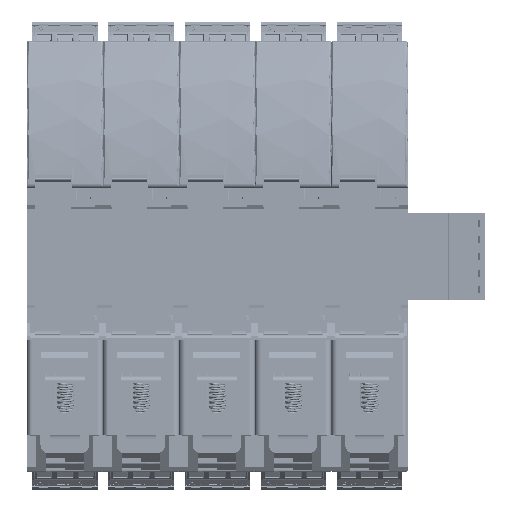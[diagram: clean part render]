
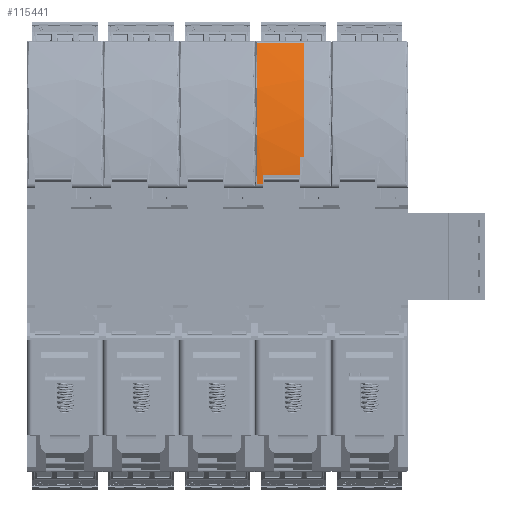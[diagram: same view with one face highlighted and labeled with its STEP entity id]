
A CAD part, front view. The second image highlights one B-rep face of the part: STEP entity #115441.
In plain terms, the highlighted cylindrical face has radius 80 mm (diameter 160 mm), a partial arc.
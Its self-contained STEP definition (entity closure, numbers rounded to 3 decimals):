
#115441=ADVANCED_FACE('',(#248951),#248953,.T.);
#248951=FACE_BOUND('',#248952,.T.);
#248952=EDGE_LOOP('',(#354961,#354962,#354963,#354964,#354965,#354966,#354967,#354968));
#248953=CYLINDRICAL_SURFACE('',#248954,80.);
#248954=AXIS2_PLACEMENT_3D('',#248955,#248956,#248957);
#248955=CARTESIAN_POINT('',(-1.7,13.5,75.75));
#248956=DIRECTION('',(-1.,0.,0.));
#248957=DIRECTION('',(0.,-1.,0.));
#354961=ORIENTED_EDGE('',*,*,#414800,.F.);
#354962=ORIENTED_EDGE('',*,*,#414801,.T.);
#354963=ORIENTED_EDGE('',*,*,#414802,.F.);
#354964=ORIENTED_EDGE('',*,*,#414803,.T.);
#354965=ORIENTED_EDGE('',*,*,#414804,.F.);
#354966=ORIENTED_EDGE('',*,*,#414805,.T.);
#354967=ORIENTED_EDGE('',*,*,#414500,.T.);
#354968=ORIENTED_EDGE('',*,*,#414498,.T.);
#414498=EDGE_CURVE('',#482353,#482351,#482354,.T.);
#414500=EDGE_CURVE('',#482356,#482353,#482357,.T.);
#414800=EDGE_CURVE('',#482891,#482351,#482893,.T.);
#414801=EDGE_CURVE('',#482891,#482894,#482895,.T.);
#414802=EDGE_CURVE('',#482896,#482894,#482897,.T.);
#414803=EDGE_CURVE('',#482896,#482898,#482899,.T.);
#414804=EDGE_CURVE('',#482900,#482898,#482901,.T.);
#414805=EDGE_CURVE('',#482900,#482356,#482902,.T.);
#482351=VERTEX_POINT('',#646390);
#482353=VERTEX_POINT('',#646395);
#482354=LINE('',#646396,#646397);
#482356=VERTEX_POINT('',#646451);
#482357=CIRCLE('',#646452,80.);
#482891=VERTEX_POINT('',#648067);
#482893=CIRCLE('',#648071,80.);
#482894=VERTEX_POINT('',#648075);
#482895=LINE('',#648076,#648077);
#482896=VERTEX_POINT('',#648079);
#482897=CIRCLE('',#648080,80.);
#482898=VERTEX_POINT('',#648084);
#482899=LINE('',#648085,#648086);
#482900=VERTEX_POINT('',#648088);
#482901=CIRCLE('',#648089,80.);
#482902=LINE('',#648093,#648094);
#646390=CARTESIAN_POINT('',(6.9,16.741,-4.184));
#646395=CARTESIAN_POINT('',(8.3,16.741,-4.184));
#646396=CARTESIAN_POINT('',(8.3,16.741,-4.184));
#646397=VECTOR('',#646398,1.);
#646398=DIRECTION('',(-1.,0.,0.));
#646451=CARTESIAN_POINT('',(8.3,49.223,4.169));
#646452=AXIS2_PLACEMENT_3D('',#646453,#646454,#646455);
#646453=CARTESIAN_POINT('',(8.3,13.5,75.75));
#646454=DIRECTION('',(-1.,0.,0.));
#646455=DIRECTION('',(0.,0.447,-0.895));
#648067=CARTESIAN_POINT('',(6.9,18.7,-4.081));
#648071=AXIS2_PLACEMENT_3D('',#648072,#648073,#648074);
#648072=CARTESIAN_POINT('',(6.9,13.5,75.75));
#648073=DIRECTION('',(-1.,0.,0.));
#648074=DIRECTION('',(0.,0.065,-0.998));
#648075=CARTESIAN_POINT('',(-1.7,18.7,-4.081));
#648076=CARTESIAN_POINT('',(6.9,18.7,-4.081));
#648077=VECTOR('',#648078,1.);
#648078=DIRECTION('',(-1.,0.,0.));
#648079=CARTESIAN_POINT('',(-1.7,22.9,-3.696));
#648080=AXIS2_PLACEMENT_3D('',#648081,#648082,#648083);
#648081=CARTESIAN_POINT('',(-1.7,13.5,75.75));
#648082=DIRECTION('',(-1.,0.,0.));
#648083=DIRECTION('',(0.,0.118,-0.993));
#648084=CARTESIAN_POINT('',(-2.5,22.9,-3.696));
#648085=CARTESIAN_POINT('',(-1.7,22.9,-3.696));
#648086=VECTOR('',#648087,1.);
#648087=DIRECTION('',(-1.,0.,0.));
#648088=CARTESIAN_POINT('',(-2.5,49.223,4.169));
#648089=AXIS2_PLACEMENT_3D('',#648090,#648091,#648092);
#648090=CARTESIAN_POINT('',(-2.5,13.5,75.75));
#648091=DIRECTION('',(-1.,0.,0.));
#648092=DIRECTION('',(0.,0.447,-0.895));
#648093=CARTESIAN_POINT('',(-2.5,49.223,4.169));
#648094=VECTOR('',#648095,1.);
#648095=DIRECTION('',(1.,0.,0.));
